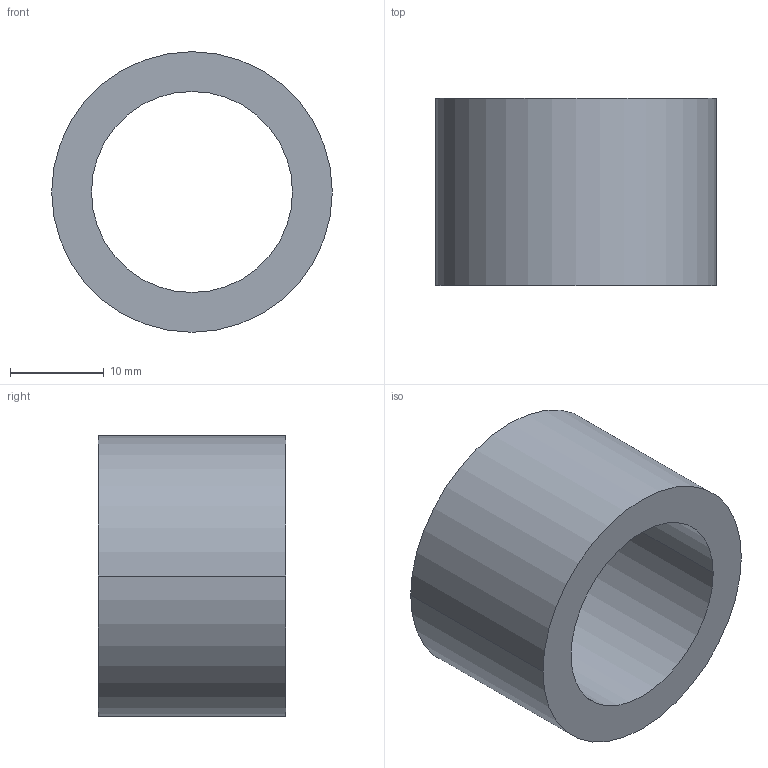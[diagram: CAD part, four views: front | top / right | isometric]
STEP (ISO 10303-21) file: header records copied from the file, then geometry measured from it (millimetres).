
FILE_DESCRIPTION (( 'STEP AP203' ), '1' );
FILE_NAME ('30800.WPP30H21.5.step', '2019-01-23T22:47:40', ( '' ), ( '' ), 'SwSTEP 2.0', 'SolidWorks 2017', '' );
FILE_SCHEMA (( 'CONFIG_CONTROL_DESIGN' ));
Length unit declared in the file: millimetre
Products named in the file (1): 30800.WPP30H21.5
Bounding box: 30 x 20 x 30 mm (x, y, z)
Volume: 6737.6 mm3; surface area: 3840.5 mm2
Topology: 1 solids, 1 shells, 8 faces, 16 edges, 10 vertices
Faces by surface type: cylinder 4, torus 2, plane 2
Entity records: 297 total; most frequent: DIRECTION 46, CARTESIAN_POINT 35, ORIENTED_EDGE 32, AXIS2_PLACEMENT_3D 21, EDGE_CURVE 16, CIRCLE 12, EDGE_LOOP 10, VERTEX_POINT 10
